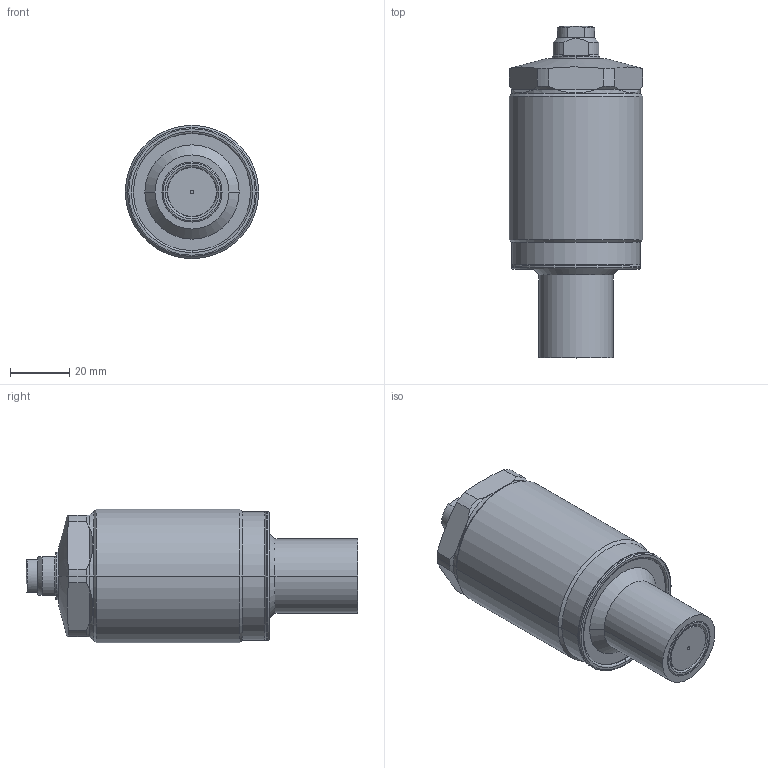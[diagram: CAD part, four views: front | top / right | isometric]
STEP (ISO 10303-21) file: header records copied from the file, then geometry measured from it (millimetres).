
FILE_DESCRIPTION(/* description */ (''),/* implementation_level */ '2;1');
FILE_NAME(/* name */ 'TSC45-Q_stp.stp',/* time_stamp */ '2024-11-02T12:43:20+08:00',/* author */ (''),/* organization */ (''),/* preprocessor_version */ 'ST-DEVELOPER v16.7',/* originating_system */ 'SIEMENS PLM Software NX 12.0',/* authorisation */ '');
FILE_SCHEMA (('AP203_CONFIGURATION_CONTROLLED_3D_DESIGN_OF_MECHANICAL_PARTS_AND_ASSEMBLIES_MIM_LF { 1 0 10303 403 2 1 2}'));
Length unit declared in the file: millimetre
Products named in the file (6): TSC45-Q-03; TSC45-Q-04; TSC45-Q-02; TSC45-Q-05; TSC45-Q-01; TSC06-Q_stp
Assembly tree (5 placements, depth 2):
  TSC06-Q_stp
    TSC45-Q-01
    TSC45-Q-05
    TSC45-Q-02
    TSC45-Q-04
    TSC45-Q-03
Bounding box: 45 x 112 x 45 mm (x, y, z)
Volume: 122617.5 mm3; surface area: 19993.7 mm2
Topology: 5 solids, 5 shells, 135 faces, 303 edges, 188 vertices
Faces by surface type: cylinder 49, plane 37, cone 27, torus 20, sphere 2
Entity records: 4509 total; most frequent: CARTESIAN_POINT 728, DIRECTION 722, ORIENTED_EDGE 606, AXIS2_PLACEMENT_3D 310, EDGE_CURVE 303, VERTEX_POINT 188, CIRCLE 169, EDGE_LOOP 151
